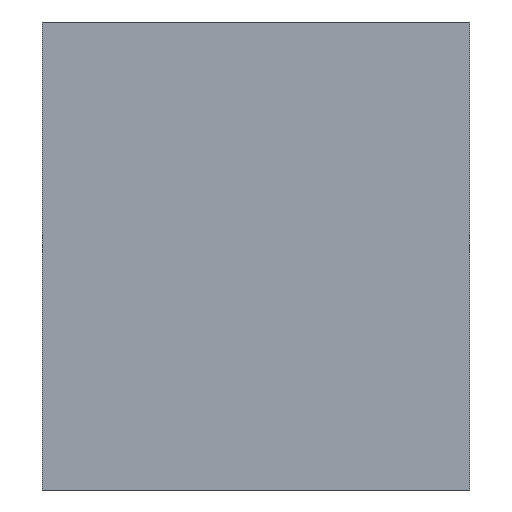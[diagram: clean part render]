
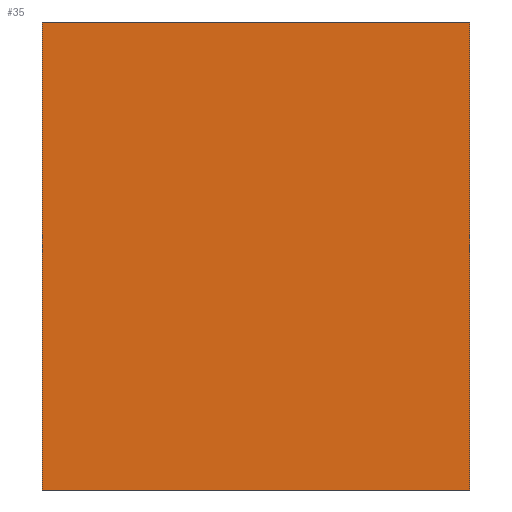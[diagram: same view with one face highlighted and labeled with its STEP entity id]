
A CAD part, left-side view. The second image highlights one B-rep face of the part: STEP entity #35.
In plain terms, the highlighted planar face has unit normal (-1, 0, 0).
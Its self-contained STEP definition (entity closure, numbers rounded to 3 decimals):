
#35 = ADVANCED_FACE('',(#36),#50,.F.);
#36 = FACE_BOUND('',#37,.F.);
#37 = EDGE_LOOP('',(#38,#73,#101,#129));
#38 = ORIENTED_EDGE('',*,*,#39,.F.);
#39 = EDGE_CURVE('',#40,#42,#44,.T.);
#40 = VERTEX_POINT('',#41);
#41 = CARTESIAN_POINT('',(-38.5,10.5,6.3));
#42 = VERTEX_POINT('',#43);
#43 = CARTESIAN_POINT('',(-38.5,10.5,29.3));
#44 = SURFACE_CURVE('',#45,(#49,#61),.PCURVE_S1.);
#45 = LINE('',#46,#47);
#46 = CARTESIAN_POINT('',(-38.5,10.5,6.3));
#47 = VECTOR('',#48,1.);
#48 = DIRECTION('',(0.,0.,1.));
#49 = PCURVE('',#50,#55);
#50 = PLANE('',#51);
#51 = AXIS2_PLACEMENT_3D('',#52,#53,#54);
#52 = CARTESIAN_POINT('',(-38.5,10.5,6.3));
#53 = DIRECTION('',(1.,0.,0.));
#54 = DIRECTION('',(0.,0.,1.));
#55 = DEFINITIONAL_REPRESENTATION('',(#56),#60);
#56 = LINE('',#57,#58);
#57 = CARTESIAN_POINT('',(0.,0.));
#58 = VECTOR('',#59,1.);
#59 = DIRECTION('',(1.,0.));
#60 = ( GEOMETRIC_REPRESENTATION_CONTEXT(2) 
PARAMETRIC_REPRESENTATION_CONTEXT() REPRESENTATION_CONTEXT('2D SPACE',''
  ) );
#61 = PCURVE('',#62,#67);
#62 = PLANE('',#63);
#63 = AXIS2_PLACEMENT_3D('',#64,#65,#66);
#64 = CARTESIAN_POINT('',(-38.5,10.5,6.3));
#65 = DIRECTION('',(0.,1.,0.));
#66 = DIRECTION('',(0.,0.,1.));
#67 = DEFINITIONAL_REPRESENTATION('',(#68),#72);
#68 = LINE('',#69,#70);
#69 = CARTESIAN_POINT('',(0.,0.));
#70 = VECTOR('',#71,1.);
#71 = DIRECTION('',(1.,0.));
#72 = ( GEOMETRIC_REPRESENTATION_CONTEXT(2) 
PARAMETRIC_REPRESENTATION_CONTEXT() REPRESENTATION_CONTEXT('2D SPACE',''
  ) );
#73 = ORIENTED_EDGE('',*,*,#74,.T.);
#74 = EDGE_CURVE('',#40,#75,#77,.T.);
#75 = VERTEX_POINT('',#76);
#76 = CARTESIAN_POINT('',(-38.5,31.5,6.3));
#77 = SURFACE_CURVE('',#78,(#82,#89),.PCURVE_S1.);
#78 = LINE('',#79,#80);
#79 = CARTESIAN_POINT('',(-38.5,10.5,6.3));
#80 = VECTOR('',#81,1.);
#81 = DIRECTION('',(0.,1.,0.));
#82 = PCURVE('',#50,#83);
#83 = DEFINITIONAL_REPRESENTATION('',(#84),#88);
#84 = LINE('',#85,#86);
#85 = CARTESIAN_POINT('',(0.,0.));
#86 = VECTOR('',#87,1.);
#87 = DIRECTION('',(0.,-1.));
#88 = ( GEOMETRIC_REPRESENTATION_CONTEXT(2) 
PARAMETRIC_REPRESENTATION_CONTEXT() REPRESENTATION_CONTEXT('2D SPACE',''
  ) );
#89 = PCURVE('',#90,#95);
#90 = PLANE('',#91);
#91 = AXIS2_PLACEMENT_3D('',#92,#93,#94);
#92 = CARTESIAN_POINT('',(-38.5,10.5,6.3));
#93 = DIRECTION('',(0.,0.,1.));
#94 = DIRECTION('',(1.,0.,0.));
#95 = DEFINITIONAL_REPRESENTATION('',(#96),#100);
#96 = LINE('',#97,#98);
#97 = CARTESIAN_POINT('',(0.,0.));
#98 = VECTOR('',#99,1.);
#99 = DIRECTION('',(0.,1.));
#100 = ( GEOMETRIC_REPRESENTATION_CONTEXT(2) 
PARAMETRIC_REPRESENTATION_CONTEXT() REPRESENTATION_CONTEXT('2D SPACE',''
  ) );
#101 = ORIENTED_EDGE('',*,*,#102,.T.);
#102 = EDGE_CURVE('',#75,#103,#105,.T.);
#103 = VERTEX_POINT('',#104);
#104 = CARTESIAN_POINT('',(-38.5,31.5,29.3));
#105 = SURFACE_CURVE('',#106,(#110,#117),.PCURVE_S1.);
#106 = LINE('',#107,#108);
#107 = CARTESIAN_POINT('',(-38.5,31.5,6.3));
#108 = VECTOR('',#109,1.);
#109 = DIRECTION('',(0.,0.,1.));
#110 = PCURVE('',#50,#111);
#111 = DEFINITIONAL_REPRESENTATION('',(#112),#116);
#112 = LINE('',#113,#114);
#113 = CARTESIAN_POINT('',(0.,-21.));
#114 = VECTOR('',#115,1.);
#115 = DIRECTION('',(1.,0.));
#116 = ( GEOMETRIC_REPRESENTATION_CONTEXT(2) 
PARAMETRIC_REPRESENTATION_CONTEXT() REPRESENTATION_CONTEXT('2D SPACE',''
  ) );
#117 = PCURVE('',#118,#123);
#118 = PLANE('',#119);
#119 = AXIS2_PLACEMENT_3D('',#120,#121,#122);
#120 = CARTESIAN_POINT('',(-38.5,31.5,6.3));
#121 = DIRECTION('',(0.,1.,0.));
#122 = DIRECTION('',(0.,0.,1.));
#123 = DEFINITIONAL_REPRESENTATION('',(#124),#128);
#124 = LINE('',#125,#126);
#125 = CARTESIAN_POINT('',(0.,0.));
#126 = VECTOR('',#127,1.);
#127 = DIRECTION('',(1.,0.));
#128 = ( GEOMETRIC_REPRESENTATION_CONTEXT(2) 
PARAMETRIC_REPRESENTATION_CONTEXT() REPRESENTATION_CONTEXT('2D SPACE',''
  ) );
#129 = ORIENTED_EDGE('',*,*,#130,.F.);
#130 = EDGE_CURVE('',#42,#103,#131,.T.);
#131 = SURFACE_CURVE('',#132,(#136,#143),.PCURVE_S1.);
#132 = LINE('',#133,#134);
#133 = CARTESIAN_POINT('',(-38.5,10.5,29.3));
#134 = VECTOR('',#135,1.);
#135 = DIRECTION('',(0.,1.,0.));
#136 = PCURVE('',#50,#137);
#137 = DEFINITIONAL_REPRESENTATION('',(#138),#142);
#138 = LINE('',#139,#140);
#139 = CARTESIAN_POINT('',(23.,0.));
#140 = VECTOR('',#141,1.);
#141 = DIRECTION('',(0.,-1.));
#142 = ( GEOMETRIC_REPRESENTATION_CONTEXT(2) 
PARAMETRIC_REPRESENTATION_CONTEXT() REPRESENTATION_CONTEXT('2D SPACE',''
  ) );
#143 = PCURVE('',#144,#149);
#144 = PLANE('',#145);
#145 = AXIS2_PLACEMENT_3D('',#146,#147,#148);
#146 = CARTESIAN_POINT('',(-38.5,10.5,29.3));
#147 = DIRECTION('',(0.,0.,1.));
#148 = DIRECTION('',(1.,0.,0.));
#149 = DEFINITIONAL_REPRESENTATION('',(#150),#154);
#150 = LINE('',#151,#152);
#151 = CARTESIAN_POINT('',(0.,0.));
#152 = VECTOR('',#153,1.);
#153 = DIRECTION('',(0.,1.));
#154 = ( GEOMETRIC_REPRESENTATION_CONTEXT(2) 
PARAMETRIC_REPRESENTATION_CONTEXT() REPRESENTATION_CONTEXT('2D SPACE',''
  ) );
